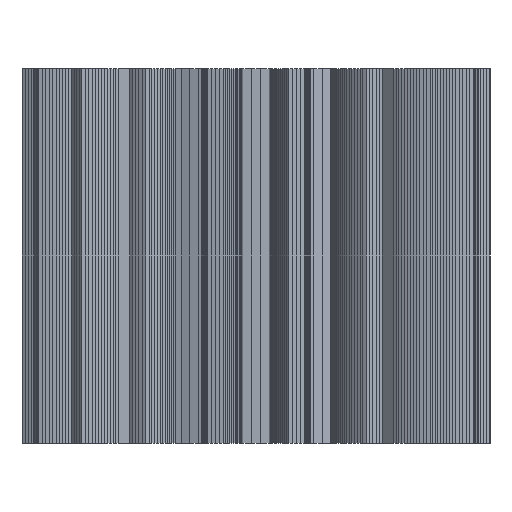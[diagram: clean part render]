
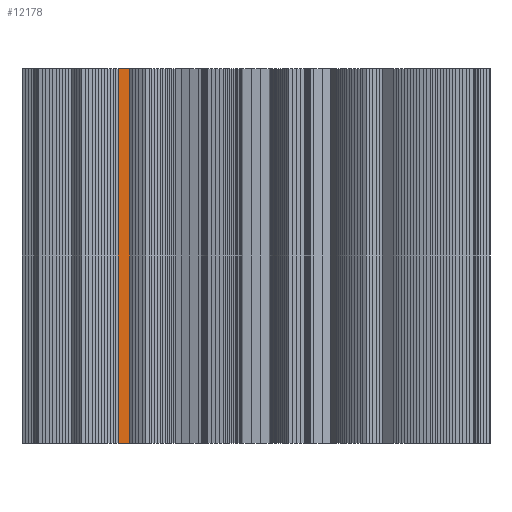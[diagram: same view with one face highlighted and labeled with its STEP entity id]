
A CAD part, front view. The second image highlights one B-rep face of the part: STEP entity #12178.
In plain terms, the highlighted planar face has unit normal (0.718, -0.697, 0).
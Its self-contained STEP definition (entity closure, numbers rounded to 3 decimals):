
#12153 = VERTEX_POINT('',#12154);
#12154 = CARTESIAN_POINT('',(-4.418,-4.551,157.));
#12160 = EDGE_CURVE('',#12161,#12153,#12163,.T.);
#12161 = VERTEX_POINT('',#12162);
#12162 = CARTESIAN_POINT('',(-4.418,-4.551,145.));
#12163 = LINE('',#12164,#12165);
#12164 = CARTESIAN_POINT('',(-4.418,-4.551,145.));
#12165 = VECTOR('',#12166,1.);
#12166 = DIRECTION('',(0.,0.,1.));
#12178 = ADVANCED_FACE('',(#12179),#12204,.F.);
#12179 = FACE_BOUND('',#12180,.F.);
#12180 = EDGE_LOOP('',(#12181,#12182,#12190,#12198));
#12181 = ORIENTED_EDGE('',*,*,#12160,.T.);
#12182 = ORIENTED_EDGE('',*,*,#12183,.T.);
#12183 = EDGE_CURVE('',#12153,#12184,#12186,.T.);
#12184 = VERTEX_POINT('',#12185);
#12185 = CARTESIAN_POINT('',(-4.048,-4.171,157.));
#12186 = LINE('',#12187,#12188);
#12187 = CARTESIAN_POINT('',(-4.418,-4.551,157.));
#12188 = VECTOR('',#12189,1.);
#12189 = DIRECTION('',(0.696,0.718,0.));
#12190 = ORIENTED_EDGE('',*,*,#12191,.F.);
#12191 = EDGE_CURVE('',#12192,#12184,#12194,.T.);
#12192 = VERTEX_POINT('',#12193);
#12193 = CARTESIAN_POINT('',(-4.048,-4.171,145.));
#12194 = LINE('',#12195,#12196);
#12195 = CARTESIAN_POINT('',(-4.048,-4.171,145.));
#12196 = VECTOR('',#12197,1.);
#12197 = DIRECTION('',(0.,0.,1.));
#12198 = ORIENTED_EDGE('',*,*,#12199,.F.);
#12199 = EDGE_CURVE('',#12161,#12192,#12200,.T.);
#12200 = LINE('',#12201,#12202);
#12201 = CARTESIAN_POINT('',(-4.418,-4.551,145.));
#12202 = VECTOR('',#12203,1.);
#12203 = DIRECTION('',(0.696,0.718,0.));
#12204 = PLANE('',#12205);
#12205 = AXIS2_PLACEMENT_3D('',#12206,#12207,#12208);
#12206 = CARTESIAN_POINT('',(-4.418,-4.551,145.));
#12207 = DIRECTION('',(-0.718,0.696,0.));
#12208 = DIRECTION('',(0.696,0.718,0.));
